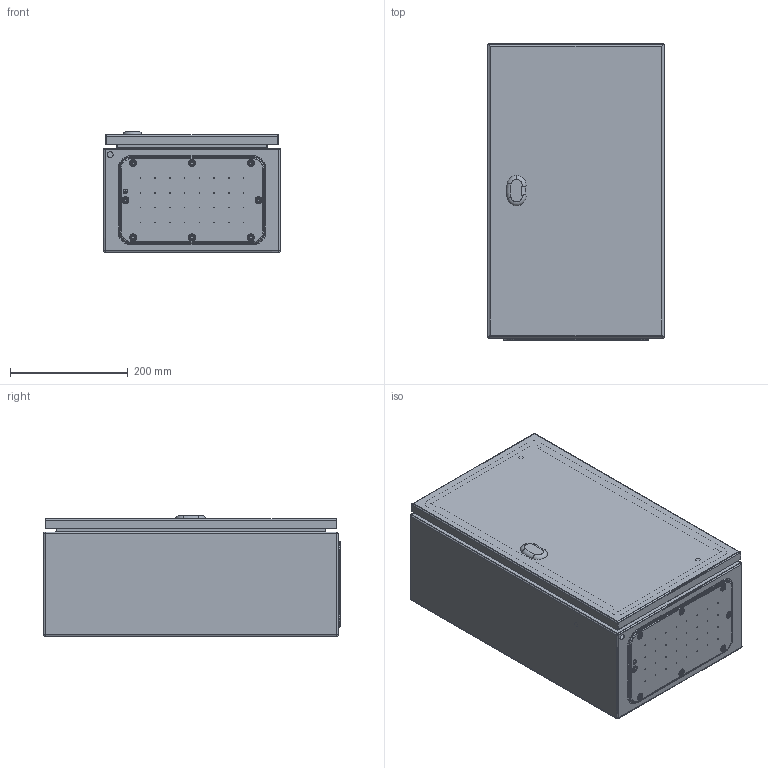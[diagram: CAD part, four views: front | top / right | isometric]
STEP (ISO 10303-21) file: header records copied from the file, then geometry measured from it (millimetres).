
FILE_DESCRIPTION (( 'STEP AP203' ), '1' );
FILE_NAME ('0300x0500x0200 dx.step', '2021-09-07T06:40:14', ( '' ), ( '' ), 'SwSTEP 2.0', 'SolidWorks 2021', '' );
FILE_SCHEMA (( 'CONFIG_CONTROL_DESIGN' ));
Length unit declared in the file: millimetre
Products named in the file (7): AR_ECOR_chiusura_std_STD; AR_ECOR_flangia IC_03; AR_ECOR_Piastra_05; AR_ECOR_montaggio_porta_singola_0300x0500; 0300x0500x0200 dx; AR_ECOR_porta_singola_0300x0500; AR_ECOR_involucro_0300x0500x0200
Assembly tree (6 placements, depth 3):
  0300x0500x0200 dx
    AR_ECOR_involucro_0300x0500x0200
    AR_ECOR_montaggio_porta_singola_0300x0500
      AR_ECOR_porta_singola_0300x0500
      AR_ECOR_chiusura_std_STD
    AR_ECOR_flangia IC_03
    AR_ECOR_Piastra_05
Bounding box: 300 x 504 x 205 mm (x, y, z)
Volume: 1319115.7 mm3; surface area: 1634046.6 mm2
Topology: 5 solids, 5 shells, 676 faces, 1671 edges, 1046 vertices
Faces by surface type: cylinder 338, plane 193, cone 60, torus 41, bspline 28, sphere 16
Entity records: 21872 total; most frequent: CARTESIAN_POINT 4594, DIRECTION 3682, ORIENTED_EDGE 3302, EDGE_CURVE 1651, AXIS2_PLACEMENT_3D 1469, VERTEX_POINT 1046, EDGE_LOOP 881, CIRCLE 811
